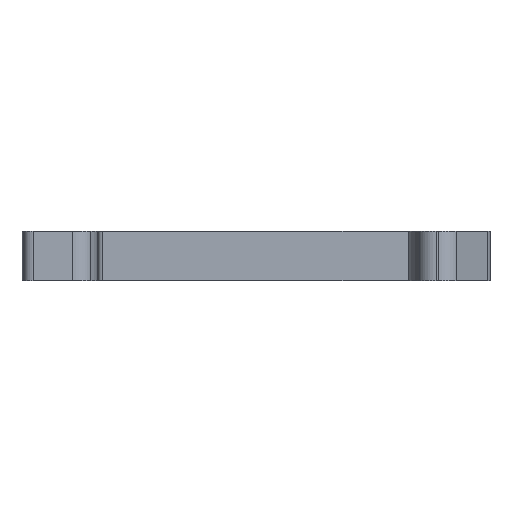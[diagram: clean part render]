
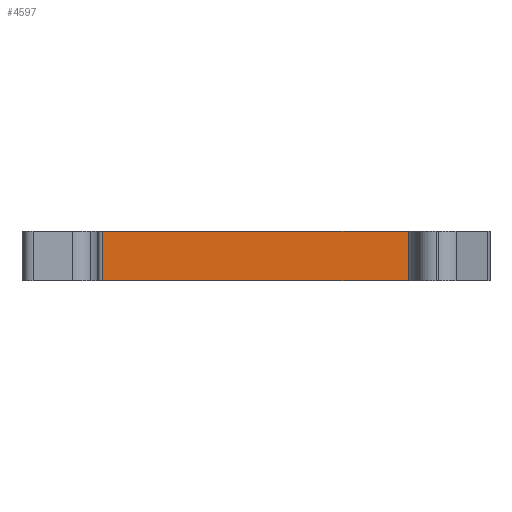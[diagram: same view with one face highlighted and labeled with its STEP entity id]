
A CAD part, front view. The second image highlights one B-rep face of the part: STEP entity #4597.
In plain terms, the highlighted planar face has unit normal (0, -1, 0).
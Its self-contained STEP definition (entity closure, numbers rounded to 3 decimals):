
#282=FACE_OUTER_BOUND('',#517,.T.);
#517=EDGE_LOOP('',(#3949,#3950,#3951,#3952));
#623=LINE('',#6517,#1144);
#698=LINE('',#6776,#1219);
#1004=LINE('',#7533,#1525);
#1005=LINE('',#7535,#1526);
#1144=VECTOR('',#5181,33.18);
#1219=VECTOR('',#5392,33.18);
#1525=VECTOR('',#6124,5.15);
#1526=VECTOR('',#6127,5.15);
#1852=VERTEX_POINT('',#6514);
#1853=VERTEX_POINT('',#6516);
#1968=VERTEX_POINT('',#6773);
#1969=VERTEX_POINT('',#6775);
#2306=EDGE_CURVE('',#1853,#1852,#623,.T.);
#2435=EDGE_CURVE('',#1969,#1968,#698,.T.);
#2814=EDGE_CURVE('',#1853,#1968,#1004,.T.);
#2815=EDGE_CURVE('',#1969,#1852,#1005,.T.);
#3949=ORIENTED_EDGE('',*,*,#2435,.T.);
#3950=ORIENTED_EDGE('',*,*,#2814,.F.);
#3951=ORIENTED_EDGE('',*,*,#2306,.T.);
#3952=ORIENTED_EDGE('',*,*,#2815,.F.);
#4391=PLANE('',#5007);
#4597=ADVANCED_FACE('',(#282),#4391,.F.);
#5007=AXIS2_PLACEMENT_3D('',#7534,#6125,#6126);
#5181=DIRECTION('',(1.,0.,0.));
#5392=DIRECTION('',(-1.,0.,0.));
#6124=DIRECTION('',(0.,0.,1.));
#6125=DIRECTION('center_axis',(0.,1.,0.));
#6126=DIRECTION('ref_axis',(0.,0.,1.));
#6127=DIRECTION('',(0.,0.,-1.));
#6514=CARTESIAN_POINT('',(17.15,-11.625,0.05));
#6516=CARTESIAN_POINT('',(-16.03,-11.625,0.05));
#6517=CARTESIAN_POINT('',(-16.03,-11.625,0.05));
#6773=CARTESIAN_POINT('',(-16.03,-11.625,5.2));
#6775=CARTESIAN_POINT('',(17.15,-11.625,5.2));
#6776=CARTESIAN_POINT('',(17.15,-11.625,5.2));
#7533=CARTESIAN_POINT('',(-16.03,-11.625,0.05));
#7534=CARTESIAN_POINT('Origin',(9.6,-11.625,0.));
#7535=CARTESIAN_POINT('',(17.15,-11.625,5.2));
